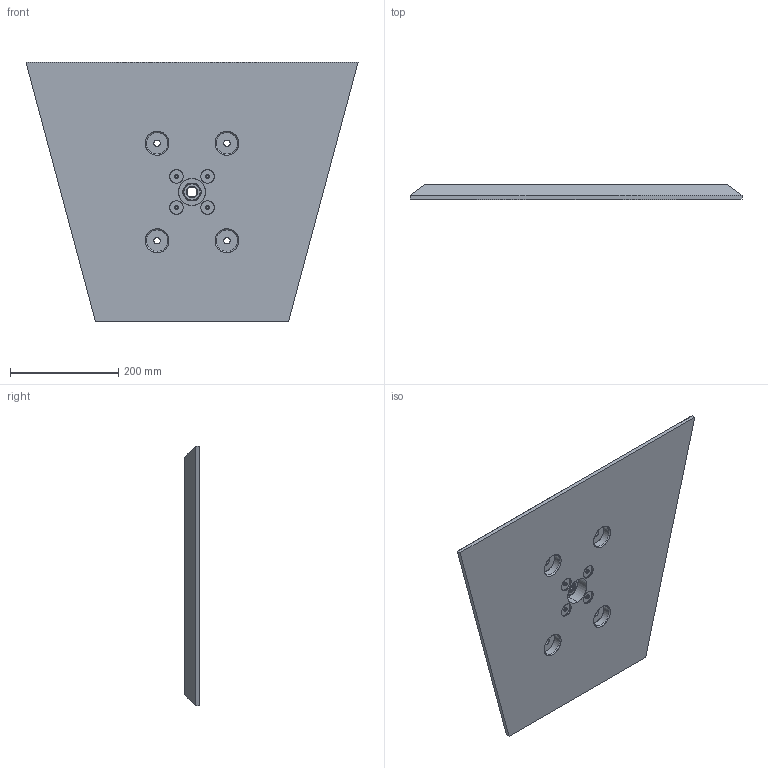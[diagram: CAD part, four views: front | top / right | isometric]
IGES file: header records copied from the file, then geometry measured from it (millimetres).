
Start section: SolidWorks IGES file using analytic representation for surfaces
Global section: file name: C:\Documents and Settings\Administrator\My Documents\Michl\SolidWorks\3d_Dateien_Homepage\Neue-Produkte\SEEBURG_Baseplate_small.IGS; native system: SolidWorks 2009; preprocessor: SolidWorks 2009; author: Administrator; date: 140404.091253; units: millimetre
Bounding box: 613.45 x 27 x 479.11 mm (x, y, z)
Surface area: 527112.6 mm2 (no closed solid volume)
Topology: 0 solids, 0 shells, 758 faces, 6040 edges, 6032 vertices
Faces by surface type: revolution 646, bspline 112
